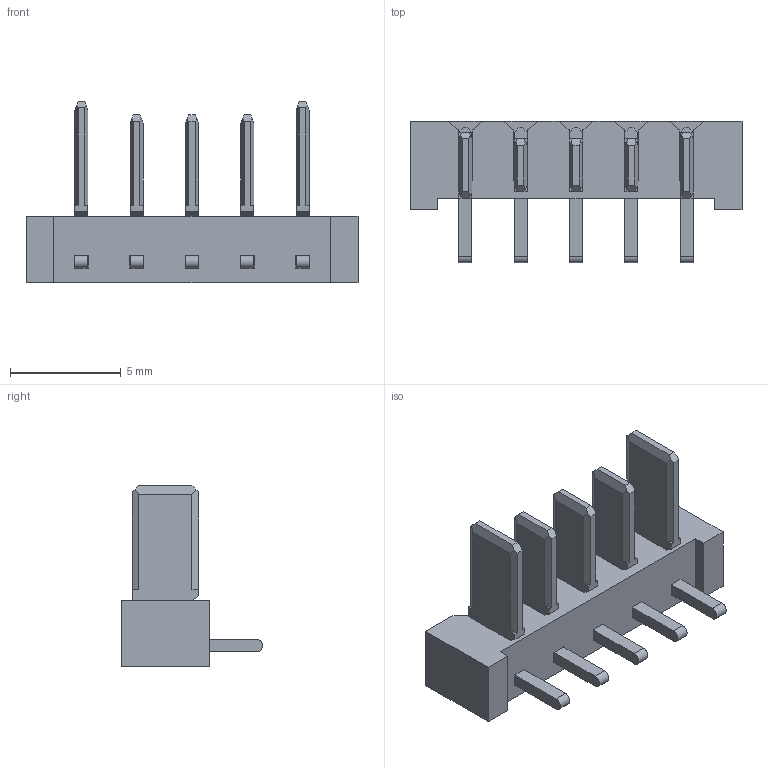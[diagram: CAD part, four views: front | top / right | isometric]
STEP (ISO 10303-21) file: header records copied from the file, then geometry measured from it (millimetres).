
FILE_DESCRIPTION((''),'2;1');
FILE_NAME('PRT0001','2026-10-02T',('tim.lee'),(''),'CREO PARAMETRIC BY PTC INC, 2015080','CREO PARAMETRIC BY PTC INC, 2015080','');
FILE_SCHEMA(('CONFIG_CONTROL_DESIGN'));
Length unit declared in the file: millimetre
Products named in the file (1): PRT0001
Bounding box: 15 x 6.4 x 8.2 mm (x, y, z)
Volume: 195.8 mm3; surface area: 529.5 mm2
Topology: 1 solids, 1 shells, 220 faces, 715 edges, 472 vertices
Faces by surface type: plane 205, cylinder 15
Entity records: 7815 total; most frequent: ORIENTED_EDGE 1430, CARTESIAN_POINT 1407, DIRECTION 1185, EDGE_CURVE 715, VECTOR 685, LINE 685, VERTEX_POINT 472, AXIS2_PLACEMENT_3D 250
